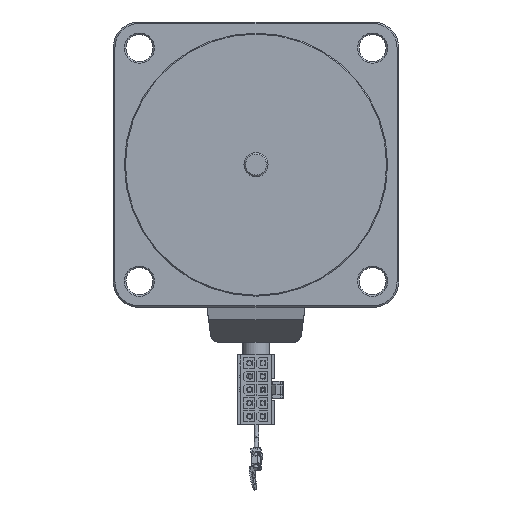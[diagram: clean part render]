
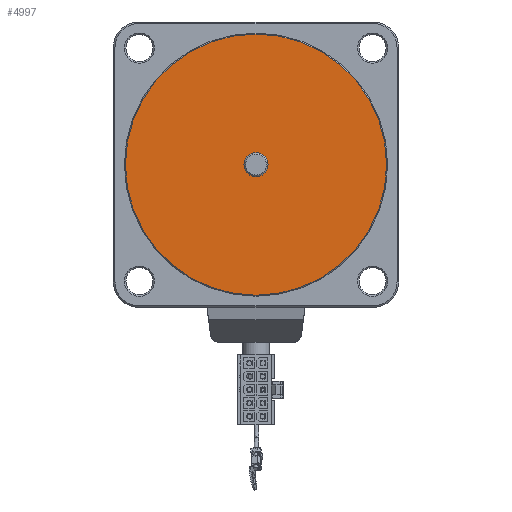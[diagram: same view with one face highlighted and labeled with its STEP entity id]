
A CAD part, front view. The second image highlights one B-rep face of the part: STEP entity #4997.
In plain terms, the highlighted planar face has unit normal (0, -1, 0).
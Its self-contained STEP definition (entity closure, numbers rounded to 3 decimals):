
#2279=CARTESIAN_POINT('',(3.8,-2.0,0.));
#2280=VERTEX_POINT('',#2279);
#2281=CARTESIAN_POINT('',(0.0,-2.0,0.0));
#2282=DIRECTION('',(0.0,1.0,0.0));
#2283=DIRECTION('',(-1.0,0.0,0.0));
#2284=AXIS2_PLACEMENT_3D('',#2281,#2282,#2283);
#2285=CIRCLE('',#2284,3.8);
#2286=EDGE_CURVE('',#2280,#2280,#2285,.T.);
#4951=CARTESIAN_POINT('',(41.2,-2.0,0.));
#4952=VERTEX_POINT('',#4951);
#4953=CARTESIAN_POINT('',(0.0,-2.0,0.0));
#4954=DIRECTION('',(0.0,1.0,0.0));
#4955=DIRECTION('',(-1.0,0.0,0.0));
#4956=AXIS2_PLACEMENT_3D('',#4953,#4954,#4955);
#4957=CIRCLE('',#4956,41.2);
#4958=EDGE_CURVE('',#4952,#4952,#4957,.T.);
#4986=CARTESIAN_POINT('',(0.0,-2.0,0.0));
#4987=DIRECTION('',(0.0,1.0,0.0));
#4988=DIRECTION('',(0.0,0.0,1.0));
#4989=AXIS2_PLACEMENT_3D('',#4986,#4987,#4988);
#4990=PLANE('',#4989);
#4991=ORIENTED_EDGE('',*,*,#4958,.F.);
#4992=EDGE_LOOP('',(#4991));
#4993=FACE_OUTER_BOUND('',#4992,.T.);
#4994=ORIENTED_EDGE('',*,*,#2286,.T.);
#4995=EDGE_LOOP('',(#4994));
#4996=FACE_BOUND('',#4995,.T.);
#4997=ADVANCED_FACE('',(#4993,#4996),#4990,.F.);
